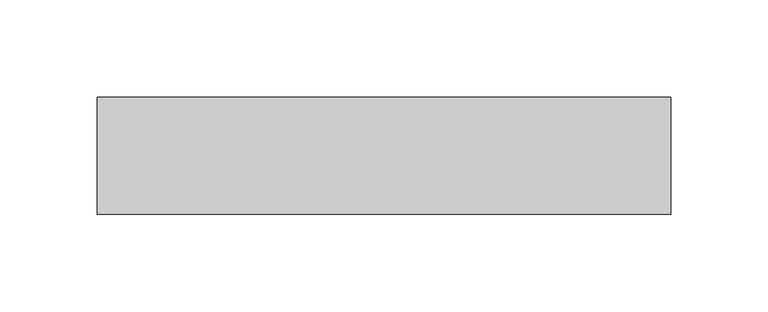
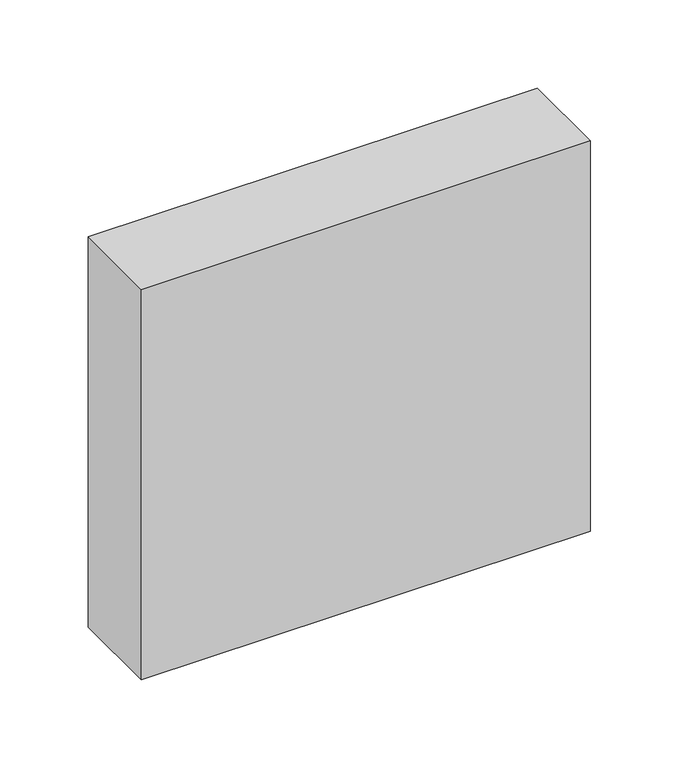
"""IFC4 building model written with IfcOpenShell, lengths in millimetres: plate geometry, Системная панель : Алюкобонд серый."""

from ifc_helpers import new_model, si_unit, origin, origin_with_axes, place, context, project, spatial, polyline, outline, extrude, source, transform, mapped, element, save


def plate_afb66309(model_context):
    return source(origin(), model_context, "Body", "SweptSolid", [
        extrude(outline(polyline([(147.0, -10.5), (-147.0, -10.5), (-147.0, 49.5), (147.0, 49.5), (147.0, -10.5)])), origin_with_axes(), (0.0, 0.0, 1.0), 270.0),
    ])


if __name__ == "__main__":
    model = new_model("IFC4")
    model_context = context("Model", 3, world=origin())
    ifc_project = project(units=[si_unit("LENGTHUNIT", "METRE", prefix="MILLI")], contexts=[model_context])
    site = spatial("IfcSite", under=ifc_project)
    building = spatial("IfcBuilding", under=site)
    placement = place(None, origin())
    plate_shape = plate_afb66309(model_context)
    element("IfcPlate", 1, ObjectType="Системная панель : Алюкобонд серый", at=placement, inside=building, context=model_context, shape_type="MappedRepresentation", body=[
        mapped(plate_shape, transform((0.0, 0.0, 0.0), x_axis=(1.0, 0.0, 0.0), y_axis=(0.0, 1.0, 0.0), z_axis=(0.0, 0.0, 1.0))),
    ])
    save(model, "model.ifc")
